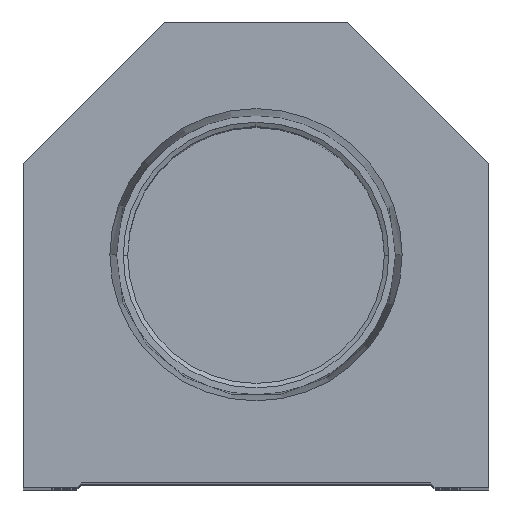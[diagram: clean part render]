
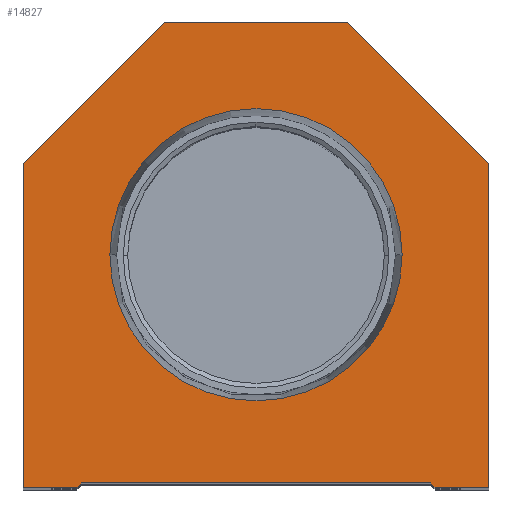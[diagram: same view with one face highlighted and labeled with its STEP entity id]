
A CAD part, top view. The second image highlights one B-rep face of the part: STEP entity #14827.
In plain terms, the highlighted planar face has unit normal (0, 0, 1).
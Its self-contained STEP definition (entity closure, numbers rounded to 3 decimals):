
#320 = DIRECTION ( 'NONE',  ( -0.707, 0.707, 0. ) ) ;
#399 = VERTEX_POINT ( 'NONE', #1508 ) ;
#1282 = CARTESIAN_POINT ( 'NONE',  ( 19.55, 0., 0. ) ) ;
#1400 = LINE ( 'NONE', #3813, #15697 ) ;
#1508 = CARTESIAN_POINT ( 'NONE',  ( -10., 50.8, 0. ) ) ;
#1534 = LINE ( 'NONE', #3797, #8690 ) ;
#1691 = DIRECTION ( 'NONE',  ( 0.707, -0.707, 0. ) ) ;
#1928 = DIRECTION ( 'NONE',  ( 1., 0., 0. ) ) ;
#1948 = CARTESIAN_POINT ( 'NONE',  ( -19.05, 0., 0. ) ) ;
#2469 = CARTESIAN_POINT ( 'NONE',  ( 25.4, 0., 0. ) ) ;
#2577 = DIRECTION ( 'NONE',  ( 0., 0., 1. ) ) ;
#2719 = CARTESIAN_POINT ( 'NONE',  ( 0., 0., 0. ) ) ;
#2731 = DIRECTION ( 'NONE',  ( -0.707, -0.707, 0. ) ) ;
#2749 = CARTESIAN_POINT ( 'NONE',  ( -25.4, 35.4, 0. ) ) ;
#3061 = DIRECTION ( 'NONE',  ( 1., 0., 0. ) ) ;
#3143 = VECTOR ( 'NONE', #15336, 1000. ) ;
#3298 = LINE ( 'NONE', #8538, #5381 ) ;
#3560 = EDGE_CURVE ( 'NONE', #6723, #13914, #4350, .T. ) ;
#3742 = ORIENTED_EDGE ( 'NONE', *, *, #15134, .T. ) ;
#3797 = CARTESIAN_POINT ( 'NONE',  ( -25.4, 35.4, 0. ) ) ;
#3813 = CARTESIAN_POINT ( 'NONE',  ( 25.4, 0., 0. ) ) ;
#3901 = ORIENTED_EDGE ( 'NONE', *, *, #3560, .T. ) ;
#4149 = CARTESIAN_POINT ( 'NONE',  ( 15.947, 25.4, 0. ) ) ;
#4151 = ORIENTED_EDGE ( 'NONE', *, *, #12139, .T. ) ;
#4164 = VERTEX_POINT ( 'NONE', #2469 ) ;
#4350 = LINE ( 'NONE', #1948, #12984 ) ;
#5091 = CARTESIAN_POINT ( 'NONE',  ( -19.55, 0., 0. ) ) ;
#5319 = FACE_OUTER_BOUND ( 'NONE', #16402, .T. ) ;
#5345 = LINE ( 'NONE', #13670, #16395 ) ;
#5354 = AXIS2_PLACEMENT_3D ( 'NONE', #6999, #5446, #16231 ) ;
#5381 = VECTOR ( 'NONE', #1928, 1000. ) ;
#5446 = DIRECTION ( 'NONE',  ( 0., 0., 1. ) ) ;
#5593 = EDGE_CURVE ( 'NONE', #9934, #9630, #5345, .T. ) ;
#5752 = CARTESIAN_POINT ( 'NONE',  ( -9.775, 9.775, 0. ) ) ;
#6172 = VECTOR ( 'NONE', #320, 1000. ) ;
#6186 = CIRCLE ( 'NONE', #5354, 15.947 ) ;
#6545 = CARTESIAN_POINT ( 'NONE',  ( -25.4, 0., 0. ) ) ;
#6690 = DIRECTION ( 'NONE',  ( 0., 1., 0. ) ) ;
#6723 = VERTEX_POINT ( 'NONE', #6545 ) ;
#6999 = CARTESIAN_POINT ( 'NONE',  ( 0., 25.4, 0. ) ) ;
#7606 = AXIS2_PLACEMENT_3D ( 'NONE', #15631, #2577, #13006 ) ;
#7817 = EDGE_CURVE ( 'NONE', #12715, #11053, #9961, .T. ) ;
#8065 = DIRECTION ( 'NONE',  ( 1., 0., 0. ) ) ;
#8150 = EDGE_CURVE ( 'NONE', #9385, #10513, #15461, .T. ) ;
#8323 = VERTEX_POINT ( 'NONE', #2749 ) ;
#8538 = CARTESIAN_POINT ( 'NONE',  ( 19.05, 0., 0. ) ) ;
#8690 = VECTOR ( 'NONE', #2731, 1000. ) ;
#8706 = EDGE_CURVE ( 'NONE', #13914, #9934, #16489, .T. ) ;
#9059 = VECTOR ( 'NONE', #12227, 1000. ) ;
#9317 = CARTESIAN_POINT ( 'NONE',  ( -19.05, 0.5, 0. ) ) ;
#9385 = VERTEX_POINT ( 'NONE', #10822 ) ;
#9630 = VERTEX_POINT ( 'NONE', #10559 ) ;
#9934 = VERTEX_POINT ( 'NONE', #9317 ) ;
#9961 = LINE ( 'NONE', #11181, #6172 ) ;
#10187 = EDGE_CURVE ( 'NONE', #12074, #4164, #3298, .T. ) ;
#10325 = CARTESIAN_POINT ( 'NONE',  ( 10., 50.8, 0. ) ) ;
#10513 = VERTEX_POINT ( 'NONE', #4149 ) ;
#10559 = CARTESIAN_POINT ( 'NONE',  ( 19.05, 0.5, 0. ) ) ;
#10647 = ORIENTED_EDGE ( 'NONE', *, *, #12662, .T. ) ;
#10650 = CARTESIAN_POINT ( 'NONE',  ( 10., 50.8, 0. ) ) ;
#10822 = CARTESIAN_POINT ( 'NONE',  ( -15.947, 25.4, 0. ) ) ;
#10824 = ORIENTED_EDGE ( 'NONE', *, *, #10187, .T. ) ;
#10829 = DIRECTION ( 'NONE',  ( 0., 0., 1. ) ) ;
#10844 = EDGE_CURVE ( 'NONE', #10513, #9385, #6186, .T. ) ;
#11053 = VERTEX_POINT ( 'NONE', #10325 ) ;
#11181 = CARTESIAN_POINT ( 'NONE',  ( 25.4, 35.4, 0. ) ) ;
#11267 = EDGE_CURVE ( 'NONE', #8323, #6723, #11271, .T. ) ;
#11271 = LINE ( 'NONE', #12504, #16816 ) ;
#12024 = ORIENTED_EDGE ( 'NONE', *, *, #7817, .T. ) ;
#12074 = VERTEX_POINT ( 'NONE', #1282 ) ;
#12132 = CARTESIAN_POINT ( 'NONE',  ( 25.4, 35.4, 0. ) ) ;
#12139 = EDGE_CURVE ( 'NONE', #9630, #12074, #13825, .T. ) ;
#12227 = DIRECTION ( 'NONE',  ( -1., 0., 0. ) ) ;
#12326 = DIRECTION ( 'NONE',  ( 0., -1., 0. ) ) ;
#12504 = CARTESIAN_POINT ( 'NONE',  ( -25.4, 0., 0. ) ) ;
#12662 = EDGE_CURVE ( 'NONE', #4164, #12715, #1400, .T. ) ;
#12715 = VERTEX_POINT ( 'NONE', #12132 ) ;
#12984 = VECTOR ( 'NONE', #3061, 1000. ) ;
#12987 = EDGE_CURVE ( 'NONE', #399, #8323, #1534, .T. ) ;
#12995 = ORIENTED_EDGE ( 'NONE', *, *, #11267, .T. ) ;
#13006 = DIRECTION ( 'NONE',  ( 1., 0., 0. ) ) ;
#13070 = ORIENTED_EDGE ( 'NONE', *, *, #5593, .T. ) ;
#13544 = AXIS2_PLACEMENT_3D ( 'NONE', #2719, #10829, #14726 ) ;
#13670 = CARTESIAN_POINT ( 'NONE',  ( -19.05, 0.5, 0. ) ) ;
#13825 = LINE ( 'NONE', #16754, #16540 ) ;
#13914 = VERTEX_POINT ( 'NONE', #5091 ) ;
#14084 = ORIENTED_EDGE ( 'NONE', *, *, #8706, .T. ) ;
#14726 = DIRECTION ( 'NONE',  ( 1., 0., 0. ) ) ;
#14827 = ADVANCED_FACE ( 'NONE', ( #14986, #5319 ), #16136, .T. ) ;
#14930 = EDGE_LOOP ( 'NONE', ( #16413, #16204 ) ) ;
#14986 = FACE_BOUND ( 'NONE', #14930, .T. ) ;
#15134 = EDGE_CURVE ( 'NONE', #11053, #399, #15933, .T. ) ;
#15336 = DIRECTION ( 'NONE',  ( 0.707, 0.707, 0. ) ) ;
#15461 = CIRCLE ( 'NONE', #7606, 15.947 ) ;
#15631 = CARTESIAN_POINT ( 'NONE',  ( 0., 25.4, 0. ) ) ;
#15697 = VECTOR ( 'NONE', #6690, 1000. ) ;
#15933 = LINE ( 'NONE', #10650, #9059 ) ;
#16136 = PLANE ( 'NONE',  #13544 ) ;
#16204 = ORIENTED_EDGE ( 'NONE', *, *, #8150, .F. ) ;
#16231 = DIRECTION ( 'NONE',  ( 1., 0., 0. ) ) ;
#16395 = VECTOR ( 'NONE', #8065, 1000. ) ;
#16402 = EDGE_LOOP ( 'NONE', ( #3901, #14084, #13070, #4151, #10824, #10647, #12024, #3742, #16447, #12995 ) ) ;
#16413 = ORIENTED_EDGE ( 'NONE', *, *, #10844, .F. ) ;
#16447 = ORIENTED_EDGE ( 'NONE', *, *, #12987, .T. ) ;
#16489 = LINE ( 'NONE', #5752, #3143 ) ;
#16540 = VECTOR ( 'NONE', #1691, 1000. ) ;
#16754 = CARTESIAN_POINT ( 'NONE',  ( 9.775, 9.775, 0. ) ) ;
#16816 = VECTOR ( 'NONE', #12326, 1000. ) ;
